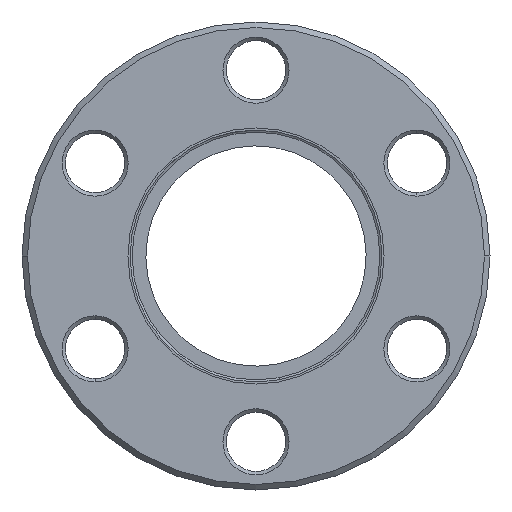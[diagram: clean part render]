
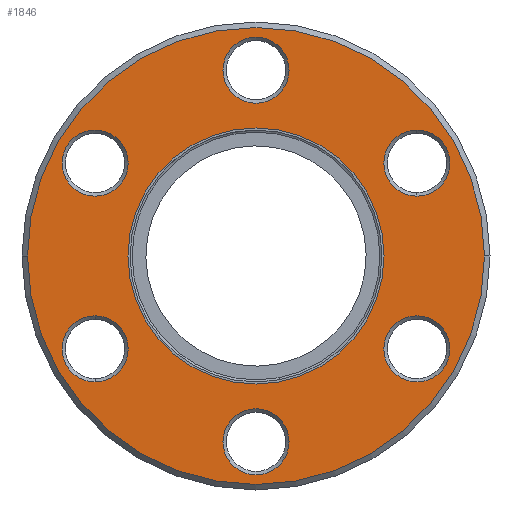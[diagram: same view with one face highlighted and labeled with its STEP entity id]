
A CAD part, left-side view. The second image highlights one B-rep face of the part: STEP entity #1846.
In plain terms, the highlighted planar face has unit normal (-1, 0, 0).
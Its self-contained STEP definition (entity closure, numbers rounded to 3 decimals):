
#511=CARTESIAN_POINT('',(2.033,6.966,0.749));
#512=VERTEX_POINT('',#511);
#521=CARTESIAN_POINT('',(2.033,-11.634,0.749));
#522=VERTEX_POINT('',#521);
#523=CARTESIAN_POINT('',(2.033,-2.334,0.749));
#524=DIRECTION('',(1.0,0.0,0.0));
#525=DIRECTION('',(0.0,1.0,0.0));
#526=AXIS2_PLACEMENT_3D('',#523,#524,#525);
#527=CIRCLE('',#526,9.3);
#528=EDGE_CURVE('',#522,#512,#527,.T.);
#553=CARTESIAN_POINT('',(2.033,-18.934,0.749));
#554=VERTEX_POINT('',#553);
#563=CARTESIAN_POINT('',(2.033,14.266,0.749));
#564=VERTEX_POINT('',#563);
#565=CARTESIAN_POINT('',(2.033,-2.334,0.749));
#566=DIRECTION('',(1.0,0.0,0.0));
#567=DIRECTION('',(0.0,-1.0,0.0));
#568=AXIS2_PLACEMENT_3D('',#565,#566,#567);
#569=CIRCLE('',#568,16.6);
#570=EDGE_CURVE('',#554,#564,#569,.T.);
#772=CARTESIAN_POINT('',(2.033,9.358,-8.401));
#773=VERTEX_POINT('',#772);
#787=CARTESIAN_POINT('',(2.033,9.358,-3.601));
#788=VERTEX_POINT('',#787);
#795=CARTESIAN_POINT('',(2.033,9.358,-6.001));
#796=DIRECTION('',(-1.0,0.0,0.0));
#797=DIRECTION('',(0.0,0.0,-1.0));
#798=AXIS2_PLACEMENT_3D('',#795,#796,#797);
#799=CIRCLE('',#798,2.4);
#800=EDGE_CURVE('',#788,#773,#799,.T.);
#911=CARTESIAN_POINT('',(2.033,11.436,6.299));
#912=VERTEX_POINT('',#911);
#926=CARTESIAN_POINT('',(2.033,7.279,8.699));
#927=VERTEX_POINT('',#926);
#934=CARTESIAN_POINT('',(2.033,9.358,7.499));
#935=DIRECTION('',(-1.0,0.,0.));
#936=DIRECTION('',(0.,0.866,-0.5));
#937=AXIS2_PLACEMENT_3D('',#934,#935,#936);
#938=CIRCLE('',#937,2.4);
#939=EDGE_CURVE('',#927,#912,#938,.T.);
#1050=CARTESIAN_POINT('',(2.033,-0.255,15.449));
#1051=VERTEX_POINT('',#1050);
#1065=CARTESIAN_POINT('',(2.033,-4.412,13.049));
#1066=VERTEX_POINT('',#1065);
#1073=CARTESIAN_POINT('',(2.033,-2.334,14.249));
#1074=DIRECTION('',(-1.,0.,0.));
#1075=DIRECTION('',(0.,0.866,0.5));
#1076=AXIS2_PLACEMENT_3D('',#1073,#1074,#1075);
#1077=CIRCLE('',#1076,2.4);
#1078=EDGE_CURVE('',#1066,#1051,#1077,.T.);
#1189=CARTESIAN_POINT('',(2.033,-14.025,9.899));
#1190=VERTEX_POINT('',#1189);
#1204=CARTESIAN_POINT('',(2.033,-14.025,5.099));
#1205=VERTEX_POINT('',#1204);
#1212=CARTESIAN_POINT('',(2.033,-14.025,7.499));
#1213=DIRECTION('',(-1.0,0.0,0.0));
#1214=DIRECTION('',(0.0,0.0,1.0));
#1215=AXIS2_PLACEMENT_3D('',#1212,#1213,#1214);
#1216=CIRCLE('',#1215,2.4);
#1217=EDGE_CURVE('',#1205,#1190,#1216,.T.);
#1328=CARTESIAN_POINT('',(2.033,-16.103,-4.801));
#1329=VERTEX_POINT('',#1328);
#1343=CARTESIAN_POINT('',(2.033,-11.946,-7.201));
#1344=VERTEX_POINT('',#1343);
#1351=CARTESIAN_POINT('',(2.033,-14.025,-6.001));
#1352=DIRECTION('',(-1.0,0.,0.));
#1353=DIRECTION('',(0.,-0.866,0.5));
#1354=AXIS2_PLACEMENT_3D('',#1351,#1352,#1353);
#1355=CIRCLE('',#1354,2.4);
#1356=EDGE_CURVE('',#1344,#1329,#1355,.T.);
#1467=CARTESIAN_POINT('',(2.033,-4.412,-13.951));
#1468=VERTEX_POINT('',#1467);
#1482=CARTESIAN_POINT('',(2.033,-0.255,-11.551));
#1483=VERTEX_POINT('',#1482);
#1490=CARTESIAN_POINT('',(2.033,-2.334,-12.751));
#1491=DIRECTION('',(-1.,0.,0.));
#1492=DIRECTION('',(0.,-0.866,-0.5));
#1493=AXIS2_PLACEMENT_3D('',#1490,#1491,#1492);
#1494=CIRCLE('',#1493,2.4);
#1495=EDGE_CURVE('',#1483,#1468,#1494,.T.);
#1722=CARTESIAN_POINT('',(2.033,-2.334,-12.751));
#1723=DIRECTION('',(-1.,0.,0.));
#1724=DIRECTION('',(0.,-0.866,-0.5));
#1725=AXIS2_PLACEMENT_3D('',#1722,#1723,#1724);
#1726=CIRCLE('',#1725,2.4);
#1727=EDGE_CURVE('',#1468,#1483,#1726,.T.);
#1767=CARTESIAN_POINT('',(2.033,10.816,0.749));
#1768=DIRECTION('',(-1.0,0.0,0.0));
#1769=DIRECTION('',(0.0,0.0,1.0));
#1770=AXIS2_PLACEMENT_3D('',#1767,#1768,#1769);
#1771=PLANE('',#1770);
#1772=CARTESIAN_POINT('',(2.033,-2.334,0.749));
#1773=DIRECTION('',(1.0,0.0,0.0));
#1774=DIRECTION('',(0.0,-1.0,0.0));
#1775=AXIS2_PLACEMENT_3D('',#1772,#1773,#1774);
#1776=CIRCLE('',#1775,16.6);
#1777=EDGE_CURVE('',#564,#554,#1776,.T.);
#1778=ORIENTED_EDGE('',*,*,#1777,.F.);
#1779=ORIENTED_EDGE('',*,*,#570,.F.);
#1780=EDGE_LOOP('',(#1778,#1779));
#1781=FACE_OUTER_BOUND('',#1780,.T.);
#1782=ORIENTED_EDGE('',*,*,#1356,.F.);
#1783=CARTESIAN_POINT('',(2.033,-14.025,-6.001));
#1784=DIRECTION('',(-1.0,0.,0.));
#1785=DIRECTION('',(0.,-0.866,0.5));
#1786=AXIS2_PLACEMENT_3D('',#1783,#1784,#1785);
#1787=CIRCLE('',#1786,2.4);
#1788=EDGE_CURVE('',#1329,#1344,#1787,.T.);
#1789=ORIENTED_EDGE('',*,*,#1788,.F.);
#1790=EDGE_LOOP('',(#1782,#1789));
#1791=FACE_BOUND('',#1790,.T.);
#1792=ORIENTED_EDGE('',*,*,#1078,.F.);
#1793=CARTESIAN_POINT('',(2.033,-2.334,14.249));
#1794=DIRECTION('',(-1.,0.,0.));
#1795=DIRECTION('',(0.,0.866,0.5));
#1796=AXIS2_PLACEMENT_3D('',#1793,#1794,#1795);
#1797=CIRCLE('',#1796,2.4);
#1798=EDGE_CURVE('',#1051,#1066,#1797,.T.);
#1799=ORIENTED_EDGE('',*,*,#1798,.F.);
#1800=EDGE_LOOP('',(#1792,#1799));
#1801=FACE_BOUND('',#1800,.T.);
#1802=ORIENTED_EDGE('',*,*,#800,.F.);
#1803=CARTESIAN_POINT('',(2.033,9.358,-6.001));
#1804=DIRECTION('',(-1.0,0.0,0.0));
#1805=DIRECTION('',(0.0,0.0,-1.0));
#1806=AXIS2_PLACEMENT_3D('',#1803,#1804,#1805);
#1807=CIRCLE('',#1806,2.4);
#1808=EDGE_CURVE('',#773,#788,#1807,.T.);
#1809=ORIENTED_EDGE('',*,*,#1808,.F.);
#1810=EDGE_LOOP('',(#1802,#1809));
#1811=FACE_BOUND('',#1810,.T.);
#1812=CARTESIAN_POINT('',(2.033,-2.334,0.749));
#1813=DIRECTION('',(1.0,0.0,0.0));
#1814=DIRECTION('',(0.0,1.0,0.0));
#1815=AXIS2_PLACEMENT_3D('',#1812,#1813,#1814);
#1816=CIRCLE('',#1815,9.3);
#1817=EDGE_CURVE('',#512,#522,#1816,.T.);
#1818=ORIENTED_EDGE('',*,*,#1817,.T.);
#1819=ORIENTED_EDGE('',*,*,#528,.T.);
#1820=EDGE_LOOP('',(#1818,#1819));
#1821=FACE_BOUND('',#1820,.T.);
#1822=ORIENTED_EDGE('',*,*,#939,.F.);
#1823=CARTESIAN_POINT('',(2.033,9.358,7.499));
#1824=DIRECTION('',(-1.0,0.,0.));
#1825=DIRECTION('',(0.,0.866,-0.5));
#1826=AXIS2_PLACEMENT_3D('',#1823,#1824,#1825);
#1827=CIRCLE('',#1826,2.4);
#1828=EDGE_CURVE('',#912,#927,#1827,.T.);
#1829=ORIENTED_EDGE('',*,*,#1828,.F.);
#1830=EDGE_LOOP('',(#1822,#1829));
#1831=FACE_BOUND('',#1830,.T.);
#1832=ORIENTED_EDGE('',*,*,#1217,.F.);
#1833=CARTESIAN_POINT('',(2.033,-14.025,7.499));
#1834=DIRECTION('',(-1.0,0.0,0.0));
#1835=DIRECTION('',(0.0,0.0,1.0));
#1836=AXIS2_PLACEMENT_3D('',#1833,#1834,#1835);
#1837=CIRCLE('',#1836,2.4);
#1838=EDGE_CURVE('',#1190,#1205,#1837,.T.);
#1839=ORIENTED_EDGE('',*,*,#1838,.F.);
#1840=EDGE_LOOP('',(#1832,#1839));
#1841=FACE_BOUND('',#1840,.T.);
#1842=ORIENTED_EDGE('',*,*,#1495,.F.);
#1843=ORIENTED_EDGE('',*,*,#1727,.F.);
#1844=EDGE_LOOP('',(#1842,#1843));
#1845=FACE_BOUND('',#1844,.T.);
#1846=ADVANCED_FACE('',(#1781,#1791,#1801,#1811,#1821,#1831,#1841,#1845),#1771,.T.);
